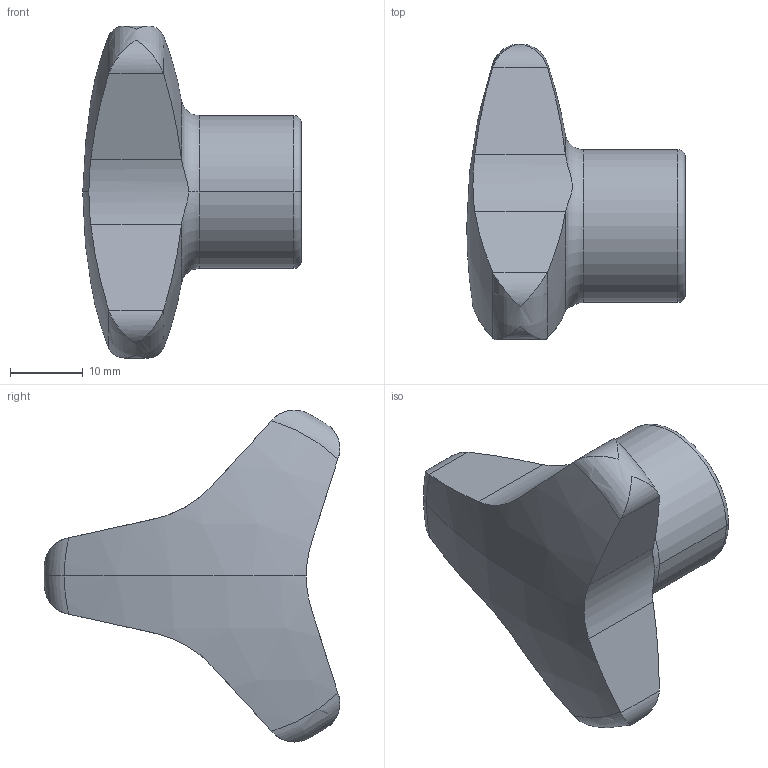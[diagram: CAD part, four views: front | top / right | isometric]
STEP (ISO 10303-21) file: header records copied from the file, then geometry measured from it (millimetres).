
FILE_DESCRIPTION (( 'STEP AP214' ), '1' );
FILE_NAME ('5345-50-M8-E.step', '2019-06-13T08:49:06', ( 'user' ), ( '' ), 'SwSTEP 2.0', 'SolidWorks 2019', '' );
FILE_SCHEMA (( 'AUTOMOTIVE_DESIGN' ));
Length unit declared in the file: millimetre
Products named in the file (1): 5345-50-M8-E
Bounding box: 30 x 40.58 x 45.59 mm (x, y, z)
Volume: 15440.3 mm3; surface area: 4733.7 mm2
Topology: 1 solids, 1 shells, 40 faces, 109 edges, 71 vertices
Faces by surface type: cylinder 16, torus 8, plane 8, sphere 6, cone 2
Entity records: 1571 total; most frequent: CARTESIAN_POINT 545, ORIENTED_EDGE 214, DIRECTION 195, EDGE_CURVE 107, AXIS2_PLACEMENT_3D 87, VERTEX_POINT 71, CIRCLE 46, EDGE_LOOP 42
